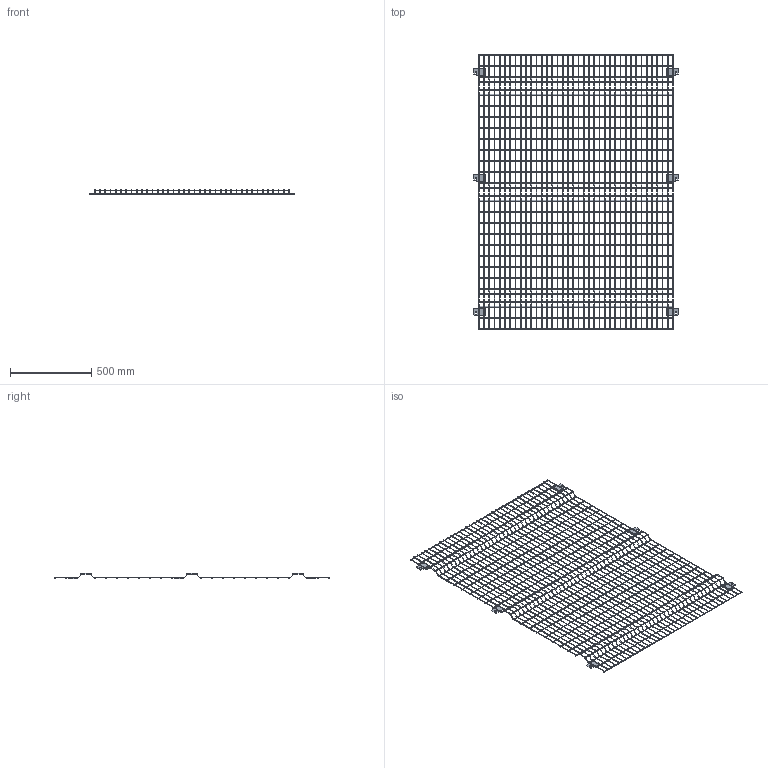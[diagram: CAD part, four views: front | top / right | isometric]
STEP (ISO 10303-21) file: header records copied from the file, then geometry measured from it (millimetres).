
FILE_DESCRIPTION (( 'STEP AP203' ), '1' );
FILE_NAME ('Frameless Panel 1200 x 1688.STEP', '2023-09-15T16:46:27', ( '' ), ( '' ), 'SwSTEP 2.0', 'SolidWorks 2023', '' );
FILE_SCHEMA (( 'CONFIG_CONTROL_DESIGN' ));
Products named in the file (1): Frameless Panel 1200 x 1688
Bounding box: 1256 x 1688 x 32 mm (x, y, z)
Volume: 1349092.3 mm3; surface area: 1330486.6 mm2
Topology: 74 solids, 74 shells, 2192 faces, 4308 edges, 2264 vertices
Faces by surface type: cylinder 1090, torus 912, plane 190
Entity records: 55543 total; most frequent: DIRECTION 11786, CARTESIAN_POINT 8765, ORIENTED_EDGE 8616, AXIS2_PLACEMENT_3D 5285, EDGE_CURVE 4308, CIRCLE 3092, VERTEX_POINT 2264, ADVANCED_FACE 2192
